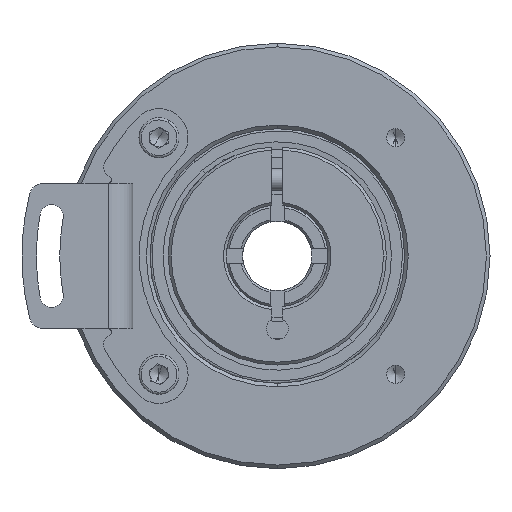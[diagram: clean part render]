
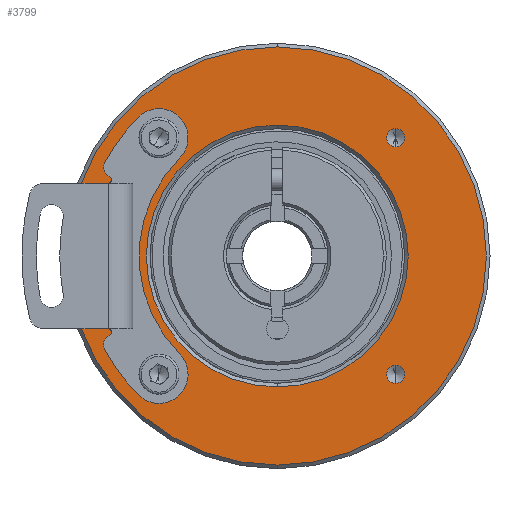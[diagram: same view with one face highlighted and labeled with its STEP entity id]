
A CAD part, front view. The second image highlights one B-rep face of the part: STEP entity #3799.
In plain terms, the highlighted planar face has unit normal (0, -1, 0).
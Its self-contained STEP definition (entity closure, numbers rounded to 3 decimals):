
#145 = CARTESIAN_POINT ( 'NONE',  ( -16.263, 0., 16.263 ) ) ;
#960 = AXIS2_PLACEMENT_3D ( 'NONE', #12715, #15703, #11465 ) ;
#1085 = DIRECTION ( 'NONE',  ( 0., -1., 0. ) ) ;
#1097 = DIRECTION ( 'NONE',  ( 0., 0., -1. ) ) ;
#1311 = CARTESIAN_POINT ( 'NONE',  ( 16.263, 0., 17.513 ) ) ;
#1338 = AXIS2_PLACEMENT_3D ( 'NONE', #8600, #7302, #16790 ) ;
#1375 = VERTEX_POINT ( 'NONE', #14090 ) ;
#1479 = EDGE_LOOP ( 'NONE', ( #14795, #16426 ) ) ;
#1517 = CIRCLE ( 'NONE', #3472, 18. ) ;
#1646 = AXIS2_PLACEMENT_3D ( 'NONE', #17259, #5131, #4961 ) ;
#1716 = CIRCLE ( 'NONE', #17263, 1.25 ) ;
#1939 = FACE_BOUND ( 'NONE', #1479, .T. ) ;
#2157 = FACE_OUTER_BOUND ( 'NONE', #6656, .T. ) ;
#2162 = ORIENTED_EDGE ( 'NONE', *, *, #4978, .F. ) ;
#2199 = EDGE_LOOP ( 'NONE', ( #2162, #4209 ) ) ;
#2266 = EDGE_LOOP ( 'NONE', ( #10425, #7645 ) ) ;
#2347 = DIRECTION ( 'NONE',  ( 0., -1., 0. ) ) ;
#2392 = CARTESIAN_POINT ( 'NONE',  ( 0., 0., 0. ) ) ;
#2892 = DIRECTION ( 'NONE',  ( 0., -1., 0. ) ) ;
#2964 = CARTESIAN_POINT ( 'NONE',  ( -16.263, 0., -17.513 ) ) ;
#3006 = FACE_BOUND ( 'NONE', #6527, .T. ) ;
#3016 = EDGE_CURVE ( 'NONE', #14670, #3705, #15890, .T. ) ;
#3472 = AXIS2_PLACEMENT_3D ( 'NONE', #4340, #14010, #9888 ) ;
#3705 = VERTEX_POINT ( 'NONE', #14891 ) ;
#3741 = AXIS2_PLACEMENT_3D ( 'NONE', #2392, #1085, #13266 ) ;
#3799 = ADVANCED_FACE ( 'NONE', ( #1939, #5777, #16135, #14822, #3006, #2157 ), #15117, .T. ) ;
#3801 = CARTESIAN_POINT ( 'NONE',  ( -16.263, 0., 16.263 ) ) ;
#4035 = EDGE_CURVE ( 'NONE', #3705, #14670, #13638, .T. ) ;
#4198 = CARTESIAN_POINT ( 'NONE',  ( 16.263, 0., -16.263 ) ) ;
#4205 = EDGE_CURVE ( 'NONE', #16750, #11075, #9119, .T. ) ;
#4209 = ORIENTED_EDGE ( 'NONE', *, *, #16625, .F. ) ;
#4216 = DIRECTION ( 'NONE',  ( 0., 0., -1. ) ) ;
#4340 = CARTESIAN_POINT ( 'NONE',  ( 0., 0., 0. ) ) ;
#4352 = DIRECTION ( 'NONE',  ( 0., -1., 0. ) ) ;
#4372 = ORIENTED_EDGE ( 'NONE', *, *, #9399, .F. ) ;
#4387 = EDGE_CURVE ( 'NONE', #7727, #16776, #13525, .T. ) ;
#4961 = DIRECTION ( 'NONE',  ( 0., 0., -1. ) ) ;
#4978 = EDGE_CURVE ( 'NONE', #17339, #17461, #16661, .T. ) ;
#5131 = DIRECTION ( 'NONE',  ( 0., -1., 0. ) ) ;
#5671 = CARTESIAN_POINT ( 'NONE',  ( 16.263, 0., 15.013 ) ) ;
#5777 = FACE_BOUND ( 'NONE', #12875, .T. ) ;
#6192 = CIRCLE ( 'NONE', #6244, 1.25 ) ;
#6244 = AXIS2_PLACEMENT_3D ( 'NONE', #8473, #4352, #11097 ) ;
#6433 = CARTESIAN_POINT ( 'NONE',  ( 0., 0., 18. ) ) ;
#6527 = EDGE_LOOP ( 'NONE', ( #4372, #9173 ) ) ;
#6545 = VERTEX_POINT ( 'NONE', #6679 ) ;
#6656 = EDGE_LOOP ( 'NONE', ( #12125, #15961 ) ) ;
#6679 = CARTESIAN_POINT ( 'NONE',  ( 16.263, 0., -15.013 ) ) ;
#6988 = DIRECTION ( 'NONE',  ( 0., -1., 0. ) ) ;
#7302 = DIRECTION ( 'NONE',  ( 0., -1., 0. ) ) ;
#7645 = ORIENTED_EDGE ( 'NONE', *, *, #4205, .F. ) ;
#7727 = VERTEX_POINT ( 'NONE', #6433 ) ;
#7795 = CARTESIAN_POINT ( 'NONE',  ( 0., 0., -28.75 ) ) ;
#8292 = DIRECTION ( 'NONE',  ( 0., 0., -1. ) ) ;
#8473 = CARTESIAN_POINT ( 'NONE',  ( 16.263, 0., -16.263 ) ) ;
#8547 = DIRECTION ( 'NONE',  ( 0., 0., -1. ) ) ;
#8600 = CARTESIAN_POINT ( 'NONE',  ( -16.263, 0., -16.263 ) ) ;
#8635 = AXIS2_PLACEMENT_3D ( 'NONE', #3801, #2347, #1097 ) ;
#8738 = CARTESIAN_POINT ( 'NONE',  ( -16.263, 0., -15.013 ) ) ;
#8927 = EDGE_CURVE ( 'NONE', #16776, #7727, #1517, .T. ) ;
#9119 = CIRCLE ( 'NONE', #12820, 1.25 ) ;
#9173 = ORIENTED_EDGE ( 'NONE', *, *, #16315, .F. ) ;
#9257 = AXIS2_PLACEMENT_3D ( 'NONE', #16671, #2892, #12512 ) ;
#9399 = EDGE_CURVE ( 'NONE', #10081, #6545, #6192, .T. ) ;
#9550 = DIRECTION ( 'NONE',  ( 0., -1., 0. ) ) ;
#9888 = DIRECTION ( 'NONE',  ( 0., 0., -1. ) ) ;
#10081 = VERTEX_POINT ( 'NONE', #11176 ) ;
#10314 = CIRCLE ( 'NONE', #960, 1.25 ) ;
#10425 = ORIENTED_EDGE ( 'NONE', *, *, #11210, .F. ) ;
#10692 = CARTESIAN_POINT ( 'NONE',  ( -16.263, 0., 17.513 ) ) ;
#10843 = CARTESIAN_POINT ( 'NONE',  ( 0., 0., -18. ) ) ;
#10875 = CARTESIAN_POINT ( 'NONE',  ( 0., 0., 0. ) ) ;
#10965 = DIRECTION ( 'NONE',  ( 0., 0., -1. ) ) ;
#11020 = DIRECTION ( 'NONE',  ( 0., -1., 0. ) ) ;
#11075 = VERTEX_POINT ( 'NONE', #5671 ) ;
#11097 = DIRECTION ( 'NONE',  ( 0., 0., -1. ) ) ;
#11176 = CARTESIAN_POINT ( 'NONE',  ( 16.263, 0., -17.513 ) ) ;
#11210 = EDGE_CURVE ( 'NONE', #11075, #16750, #10314, .T. ) ;
#11465 = DIRECTION ( 'NONE',  ( 0., 0., -1. ) ) ;
#11934 = AXIS2_PLACEMENT_3D ( 'NONE', #10875, #13811, #4216 ) ;
#12125 = ORIENTED_EDGE ( 'NONE', *, *, #4035, .T. ) ;
#12512 = DIRECTION ( 'NONE',  ( 0., 0., -1. ) ) ;
#12654 = VERTEX_POINT ( 'NONE', #10692 ) ;
#12701 = EDGE_CURVE ( 'NONE', #1375, #12654, #12933, .T. ) ;
#12715 = CARTESIAN_POINT ( 'NONE',  ( 16.263, 0., 16.263 ) ) ;
#12820 = AXIS2_PLACEMENT_3D ( 'NONE', #14919, #9550, #10965 ) ;
#12875 = EDGE_LOOP ( 'NONE', ( #15197, #17124 ) ) ;
#12886 = CIRCLE ( 'NONE', #1646, 1.25 ) ;
#12933 = CIRCLE ( 'NONE', #16286, 1.25 ) ;
#13266 = DIRECTION ( 'NONE',  ( 0., 0., -1. ) ) ;
#13525 = CIRCLE ( 'NONE', #11934, 18. ) ;
#13638 = CIRCLE ( 'NONE', #3741, 28.75 ) ;
#13811 = DIRECTION ( 'NONE',  ( 0., 1., 0. ) ) ;
#13867 = DIRECTION ( 'NONE',  ( 0., -1., 0. ) ) ;
#14010 = DIRECTION ( 'NONE',  ( 0., 1., 0. ) ) ;
#14090 = CARTESIAN_POINT ( 'NONE',  ( -16.263, 0., 15.013 ) ) ;
#14670 = VERTEX_POINT ( 'NONE', #7795 ) ;
#14706 = AXIS2_PLACEMENT_3D ( 'NONE', #17713, #11020, #8292 ) ;
#14795 = ORIENTED_EDGE ( 'NONE', *, *, #8927, .T. ) ;
#14822 = FACE_BOUND ( 'NONE', #2199, .T. ) ;
#14891 = CARTESIAN_POINT ( 'NONE',  ( 0., 0., 28.75 ) ) ;
#14919 = CARTESIAN_POINT ( 'NONE',  ( 16.263, 0., 16.263 ) ) ;
#15117 = PLANE ( 'NONE',  #9257 ) ;
#15197 = ORIENTED_EDGE ( 'NONE', *, *, #12701, .F. ) ;
#15561 = EDGE_CURVE ( 'NONE', #12654, #1375, #16072, .T. ) ;
#15703 = DIRECTION ( 'NONE',  ( 0., -1., 0. ) ) ;
#15890 = CIRCLE ( 'NONE', #14706, 28.75 ) ;
#15961 = ORIENTED_EDGE ( 'NONE', *, *, #3016, .T. ) ;
#16072 = CIRCLE ( 'NONE', #8635, 1.25 ) ;
#16135 = FACE_BOUND ( 'NONE', #2266, .T. ) ;
#16286 = AXIS2_PLACEMENT_3D ( 'NONE', #145, #13867, #8547 ) ;
#16315 = EDGE_CURVE ( 'NONE', #6545, #10081, #1716, .T. ) ;
#16426 = ORIENTED_EDGE ( 'NONE', *, *, #4387, .T. ) ;
#16625 = EDGE_CURVE ( 'NONE', #17461, #17339, #12886, .T. ) ;
#16661 = CIRCLE ( 'NONE', #1338, 1.25 ) ;
#16671 = CARTESIAN_POINT ( 'NONE',  ( 0., 0., 0. ) ) ;
#16750 = VERTEX_POINT ( 'NONE', #1311 ) ;
#16776 = VERTEX_POINT ( 'NONE', #10843 ) ;
#16790 = DIRECTION ( 'NONE',  ( 0., 0., -1. ) ) ;
#17124 = ORIENTED_EDGE ( 'NONE', *, *, #15561, .F. ) ;
#17259 = CARTESIAN_POINT ( 'NONE',  ( -16.263, 0., -16.263 ) ) ;
#17263 = AXIS2_PLACEMENT_3D ( 'NONE', #4198, #6988, #17678 ) ;
#17339 = VERTEX_POINT ( 'NONE', #2964 ) ;
#17461 = VERTEX_POINT ( 'NONE', #8738 ) ;
#17678 = DIRECTION ( 'NONE',  ( 0., 0., -1. ) ) ;
#17713 = CARTESIAN_POINT ( 'NONE',  ( 0., 0., 0. ) ) ;
